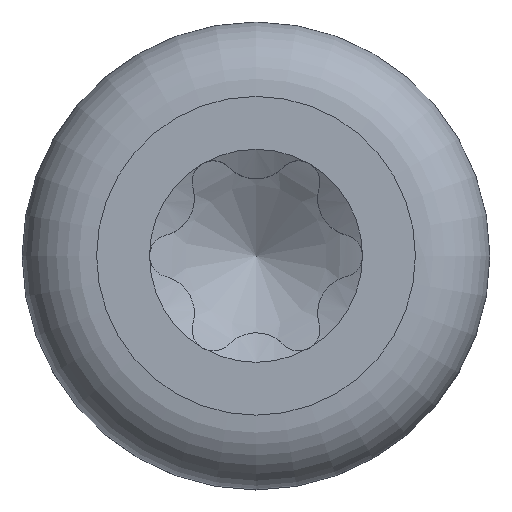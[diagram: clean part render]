
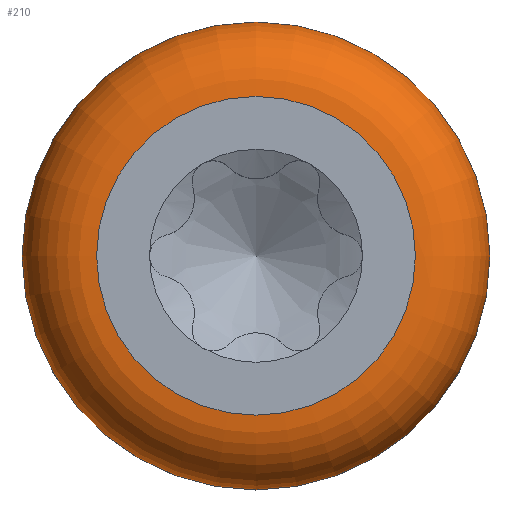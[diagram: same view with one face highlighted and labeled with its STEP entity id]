
A CAD part, top view. The second image highlights one B-rep face of the part: STEP entity #210.
In plain terms, the highlighted toroidal (fillet/blend) face has major radius 4.19 mm and minor radius 1.96 mm.
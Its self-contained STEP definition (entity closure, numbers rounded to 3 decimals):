
#170=TOROIDAL_SURFACE('',#1120,4.19,1.96);
#181=FACE_BOUND('',#362,.T.);
#182=FACE_BOUND('',#363,.T.);
#210=ADVANCED_FACE('',(#181,#182),#170,.T.);
#362=EDGE_LOOP('',(#493));
#363=EDGE_LOOP('',(#494));
#439=CIRCLE('',#1117,6.15);
#440=CIRCLE('',#1119,4.19);
#493=ORIENTED_EDGE('',*,*,#894,.F.);
#494=ORIENTED_EDGE('',*,*,#893,.T.);
#793=VERTEX_POINT('',#2225);
#794=VERTEX_POINT('',#2228);
#893=EDGE_CURVE('',#793,#793,#439,.T.);
#894=EDGE_CURVE('',#794,#794,#440,.T.);
#1117=AXIS2_PLACEMENT_3D('',#2224,#1185,#1186);
#1119=AXIS2_PLACEMENT_3D('',#2227,#1189,#1190);
#1120=AXIS2_PLACEMENT_3D('',#2229,#1191,#1192);
#1185=DIRECTION('',(0.,0.,1.));
#1186=DIRECTION('',(1.,0.,0.));
#1189=DIRECTION('',(0.,0.,1.));
#1190=DIRECTION('',(1.,0.,0.));
#1191=DIRECTION('',(0.,0.,1.));
#1192=DIRECTION('',(1.,0.,0.));
#2224=CARTESIAN_POINT('',(0.,0.,2.94));
#2225=CARTESIAN_POINT('',(6.15,0.,2.94));
#2227=CARTESIAN_POINT('',(0.,0.,4.9));
#2228=CARTESIAN_POINT('',(4.19,0.,4.9));
#2229=CARTESIAN_POINT('',(0.,0.,2.94));
